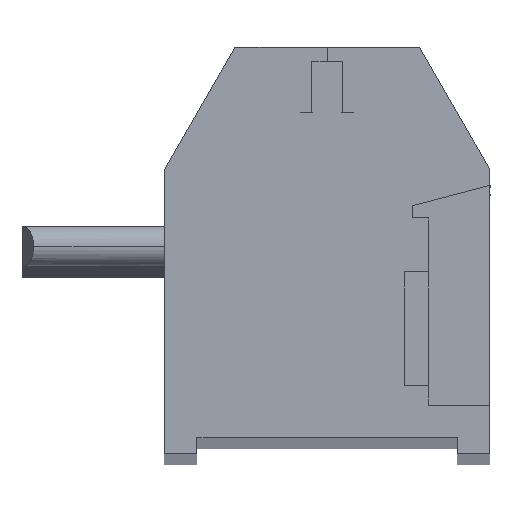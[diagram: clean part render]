
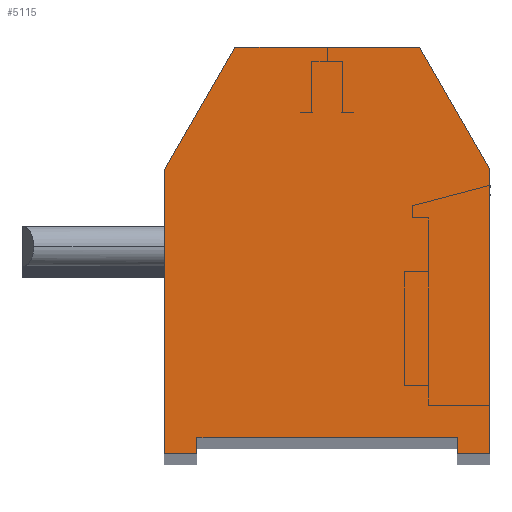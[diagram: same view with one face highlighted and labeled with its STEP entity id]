
A CAD part, top view. The second image highlights one B-rep face of the part: STEP entity #5115.
In plain terms, the highlighted planar face has unit normal (0, 0, 1).
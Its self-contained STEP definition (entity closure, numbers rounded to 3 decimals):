
#796 = EDGE_CURVE ( 'NONE', #78503, #78486, #19488, .T. ) ;
#811 = EDGE_CURVE ( 'NONE', #74141, #812, #19551, .T. ) ;
#812 = VERTEX_POINT ( 'NONE', #19542 ) ;
#977 = VERTEX_POINT ( 'NONE', #19709 ) ;
#979 = EDGE_CURVE ( 'NONE', #977, #78497, #19705, .T. ) ;
#5054 = ORIENTED_EDGE ( 'NONE', *, *, #74140, .T. ) ;
#5115 = ADVANCED_FACE ( 'NONE', ( #19666 ), #19661, .F. ) ;
#5118 = EDGE_LOOP ( 'NONE', ( #5121, #5131, #5054, #5148, #5152, #5155, #5159, #5164, #5167, #5176 ) ) ;
#5121 = ORIENTED_EDGE ( 'NONE', *, *, #5125, .T. ) ;
#5125 = EDGE_CURVE ( 'NONE', #5127, #812, #19753, .T. ) ;
#5127 = VERTEX_POINT ( 'NONE', #19745 ) ;
#5131 = ORIENTED_EDGE ( 'NONE', *, *, #811, .F. ) ;
#5148 = ORIENTED_EDGE ( 'NONE', *, *, #78488, .T. ) ;
#5152 = ORIENTED_EDGE ( 'NONE', *, *, #796, .F. ) ;
#5155 = ORIENTED_EDGE ( 'NONE', *, *, #78502, .T. ) ;
#5159 = ORIENTED_EDGE ( 'NONE', *, *, #78557, .T. ) ;
#5164 = ORIENTED_EDGE ( 'NONE', *, *, #979, .F. ) ;
#5167 = ORIENTED_EDGE ( 'NONE', *, *, #5170, .T. ) ;
#5170 = EDGE_CURVE ( 'NONE', #977, #5173, #19776, .T. ) ;
#5173 = VERTEX_POINT ( 'NONE', #19908 ) ;
#5176 = ORIENTED_EDGE ( 'NONE', *, *, #5178, .T. ) ;
#5178 = EDGE_CURVE ( 'NONE', #5173, #5127, #19895, .T. ) ;
#19482 = DIRECTION ( 'NONE',  ( -1., 0., 0. ) ) ;
#19484 = VECTOR ( 'NONE', #19482, 1000. ) ;
#19486 = CARTESIAN_POINT ( 'NONE',  ( 0., 0.4, 0. ) ) ;
#19488 = LINE ( 'NONE', #19486, #19484 ) ;
#19542 = CARTESIAN_POINT ( 'NONE',  ( -4., 7., 0. ) ) ;
#19544 = DIRECTION ( 'NONE',  ( 0., 1., 0. ) ) ;
#19546 = VECTOR ( 'NONE', #19544, 1000. ) ;
#19548 = CARTESIAN_POINT ( 'NONE',  ( -4., 0., 0. ) ) ;
#19551 = LINE ( 'NONE', #19548, #19546 ) ;
#19655 = DIRECTION ( 'NONE',  ( -1., 0., 0. ) ) ;
#19656 = DIRECTION ( 'NONE',  ( 0., 0., -1. ) ) ;
#19658 = CARTESIAN_POINT ( 'NONE',  ( 4., 0., 0. ) ) ;
#19659 = AXIS2_PLACEMENT_3D ( 'NONE', #19658, #19656, #19655 ) ;
#19661 = PLANE ( 'NONE',  #19659 ) ;
#19666 = FACE_OUTER_BOUND ( 'NONE', #5118, .T. ) ;
#19701 = DIRECTION ( 'NONE',  ( 0., -1., 0. ) ) ;
#19703 = VECTOR ( 'NONE', #19701, 1000. ) ;
#19704 = CARTESIAN_POINT ( 'NONE',  ( 4., 0., 0. ) ) ;
#19705 = LINE ( 'NONE', #19704, #19703 ) ;
#19709 = CARTESIAN_POINT ( 'NONE',  ( 4., 7., 0. ) ) ;
#19745 = CARTESIAN_POINT ( 'NONE',  ( -2.268, 10., 0. ) ) ;
#19749 = DIRECTION ( 'NONE',  ( -0.5, -0.866, 0. ) ) ;
#19750 = VECTOR ( 'NONE', #19749, 1000. ) ;
#19751 = CARTESIAN_POINT ( 'NONE',  ( -3.134, 8.5, 0. ) ) ;
#19753 = LINE ( 'NONE', #19751, #19750 ) ;
#19774 = DIRECTION ( 'NONE',  ( -0.5, 0.866, 0. ) ) ;
#19775 = CARTESIAN_POINT ( 'NONE',  ( 3.134, 8.5, 0. ) ) ;
#19776 = LINE ( 'NONE', #19775, #19910 ) ;
#19890 = DIRECTION ( 'NONE',  ( -1., 0., 0. ) ) ;
#19891 = VECTOR ( 'NONE', #19890, 1000. ) ;
#19893 = CARTESIAN_POINT ( 'NONE',  ( 0., 10., 0. ) ) ;
#19895 = LINE ( 'NONE', #19893, #19891 ) ;
#19908 = CARTESIAN_POINT ( 'NONE',  ( 2.268, 10., 0. ) ) ;
#19910 = VECTOR ( 'NONE', #19774, 1000. ) ;
#56927 = CARTESIAN_POINT ( 'NONE',  ( -4., 0., 0. ) ) ;
#56928 = DIRECTION ( 'NONE',  ( 1., 0., 0. ) ) ;
#56929 = VECTOR ( 'NONE', #56928, 1000. ) ;
#56930 = CARTESIAN_POINT ( 'NONE',  ( -3.6, 0., 0. ) ) ;
#56931 = LINE ( 'NONE', #56930, #56929 ) ;
#56932 = CARTESIAN_POINT ( 'NONE',  ( -3.2, 0., 0. ) ) ;
#64497 = CARTESIAN_POINT ( 'NONE',  ( 3.2, 0., 0. ) ) ;
#64543 = CARTESIAN_POINT ( 'NONE',  ( 4., 0., 0. ) ) ;
#64559 = DIRECTION ( 'NONE',  ( 0., 1., 0. ) ) ;
#64560 = VECTOR ( 'NONE', #64559, 1000. ) ;
#64561 = CARTESIAN_POINT ( 'NONE',  ( -3.2, 0.2, 0. ) ) ;
#64562 = LINE ( 'NONE', #64561, #64560 ) ;
#64563 = CARTESIAN_POINT ( 'NONE',  ( -3.2, 0.4, 0. ) ) ;
#64600 = CARTESIAN_POINT ( 'NONE',  ( 3.2, 0.4, 0. ) ) ;
#64601 = DIRECTION ( 'NONE',  ( 0., -1., 0. ) ) ;
#64602 = VECTOR ( 'NONE', #64601, 1000. ) ;
#64603 = CARTESIAN_POINT ( 'NONE',  ( 3.2, 0.2, 0. ) ) ;
#64604 = LINE ( 'NONE', #64603, #64602 ) ;
#64661 = DIRECTION ( 'NONE',  ( 1., 0., 0. ) ) ;
#64662 = VECTOR ( 'NONE', #64661, 1000. ) ;
#64663 = CARTESIAN_POINT ( 'NONE',  ( 3.6, 0., 0. ) ) ;
#64664 = LINE ( 'NONE', #64663, #64662 ) ;
#74138 = VERTEX_POINT ( 'NONE', #56932 ) ;
#74140 = EDGE_CURVE ( 'NONE', #74141, #74138, #56931, .T. ) ;
#74141 = VERTEX_POINT ( 'NONE', #56927 ) ;
#78445 = VERTEX_POINT ( 'NONE', #64497 ) ;
#78486 = VERTEX_POINT ( 'NONE', #64563 ) ;
#78488 = EDGE_CURVE ( 'NONE', #74138, #78486, #64562, .T. ) ;
#78497 = VERTEX_POINT ( 'NONE', #64543 ) ;
#78502 = EDGE_CURVE ( 'NONE', #78503, #78445, #64604, .T. ) ;
#78503 = VERTEX_POINT ( 'NONE', #64600 ) ;
#78557 = EDGE_CURVE ( 'NONE', #78445, #78497, #64664, .T. ) ;
